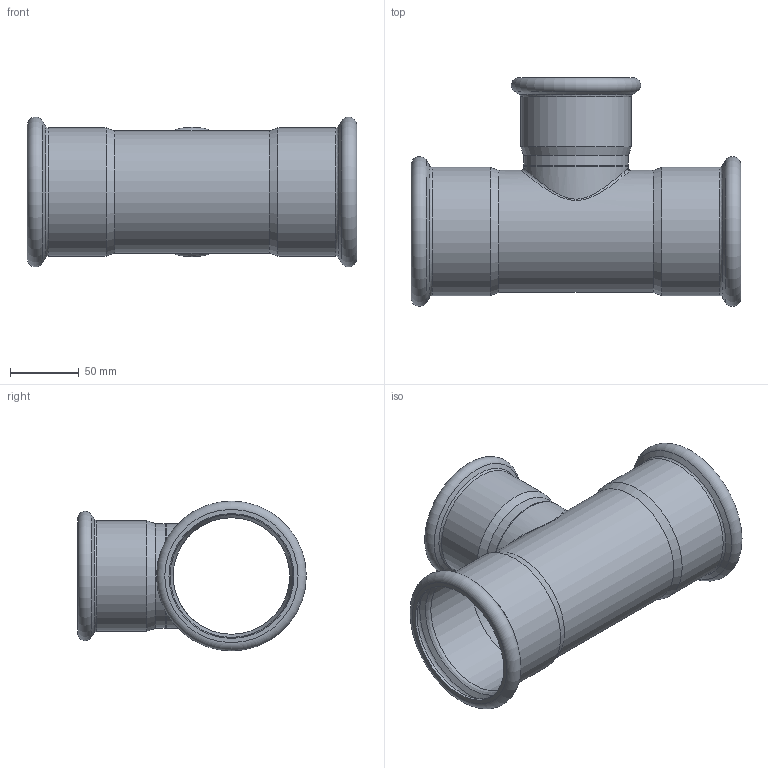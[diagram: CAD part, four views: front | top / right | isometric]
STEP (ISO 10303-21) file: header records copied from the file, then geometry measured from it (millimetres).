
FILE_DESCRIPTION((''),'2;1');
FILE_NAME('G:\Nirosan-Schmiedefeld\Technics\CAD\Bauteile VA\089\69130897689(2).stp','2011-10-28T10:56:57',('herberg'),(''),'Autodesk Inventor 2009','Autodesk Inventor 2009','');
FILE_SCHEMA(('AUTOMOTIVE_DESIGN { 1 0 10303 214 1 1 1 1 }'));
Length unit declared in the file: millimetre
Products named in the file (3): 69130897689(2); LM_69130897689(0); HM_6924376(1)
Assembly tree (2 placements, depth 2):
  69130897689(2)
    LM_69130897689(0)
    HM_6924376(1)
Bounding box: 240 x 166.55 x 109.1 mm (x, y, z)
Volume: 180325.1 mm3; surface area: 182924.8 mm2
Topology: 2 solids, 2 shells, 49 faces, 99 edges, 57 vertices
Faces by surface type: cylinder 15, cone 12, plane 8, bspline 8, torus 6
Full cylindrical faces by diameter (mm): 72.1 x2, 76.1 x2, 76.6 x1, 78 x1, 80.6 x1, 84.9 x1, 88.9 x1, 89.5 x2, 91 x2, 93.5 x2
Entity records: 3350 total; most frequent: CARTESIAN_POINT 2451, DIRECTION 186, ORIENTED_EDGE 104, EDGE_LOOP 98, AXIS2_PLACEMENT_3D 93, EDGE_CURVE 52, VERTEX_POINT 50, FACE_OUTER_BOUND 49
